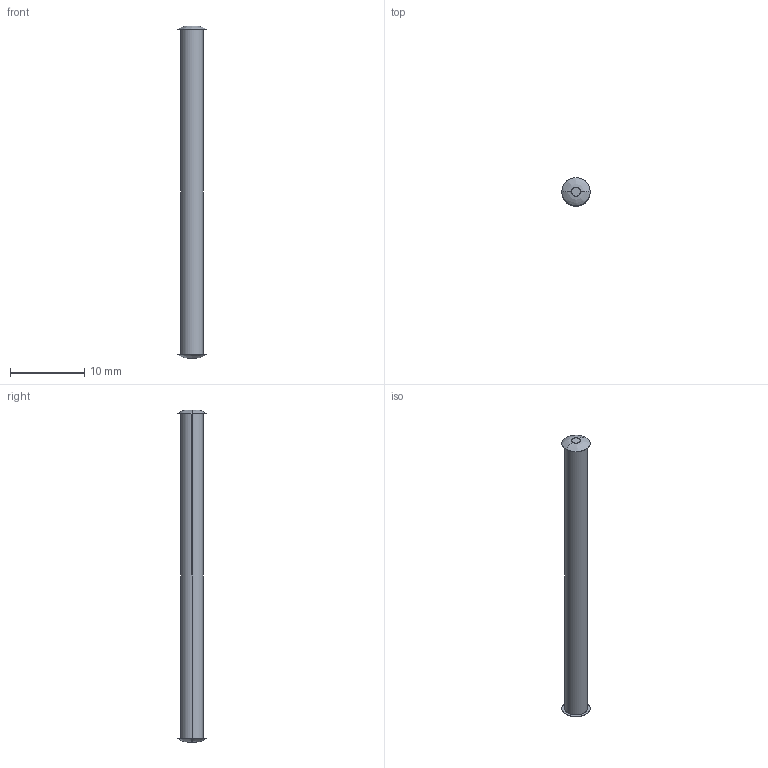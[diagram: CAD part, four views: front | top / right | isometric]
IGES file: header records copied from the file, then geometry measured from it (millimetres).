
Start section: SolidWorks IGES FILE using analytic representation for surfaces
Global section: file name: C:\Documents and Settings\lecoutey\Bureau\GP 2013\1086.040.10.IGS; native system: SolidWorks 2004 by SolidWorks Corporation; preprocessor: Version 5.3; author: lecoutey; date: 050329.162025; units: millimetre
Bounding box: 3.8 x 3.8 x 44.7 mm (x, y, z)
Surface area: 445.6 mm2 (no closed solid volume)
Topology: 0 solids, 0 shells, 10 faces, 184 edges, 184 vertices
Faces by surface type: bspline 8, revolution 2
